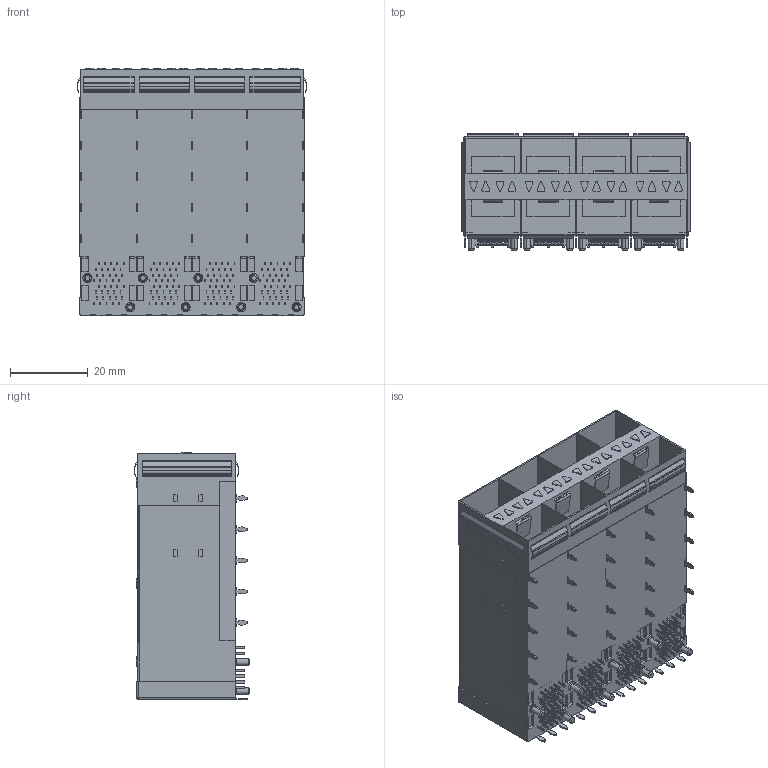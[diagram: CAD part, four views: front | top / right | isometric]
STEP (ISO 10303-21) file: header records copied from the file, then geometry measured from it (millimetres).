
FILE_DESCRIPTION (( 'STEP AP203' ), '1' );
FILE_NAME ('22401_SFP+ 2X4 囀俋絳嫖翐.STEP', '2024-06-05T00:33:41', ( '' ), ( '' ), 'SwSTEP 2.0', 'SolidWorks 2018', '' );
FILE_SCHEMA (( 'CONFIG_CONTROL_DESIGN' ));
Products named in the file (1): 22401_SFP+ 2X4 囀俋絳嫖翐
Bounding box: 59.06 x 29.78 x 63.5 mm (x, y, z)
Volume: 46951.8 mm3; surface area: 34615.2 mm2
Topology: 1 solids, 1 shells, 2249 faces, 6231 edges, 4226 vertices
Faces by surface type: plane 1643, cylinder 572, cone 32, sphere 2
Entity records: 71864 total; most frequent: CARTESIAN_POINT 12705, ORIENTED_EDGE 12458, DIRECTION 11909, EDGE_CURVE 6229, VECTOR 5049, LINE 5049, VERTEX_POINT 4226, AXIS2_PLACEMENT_3D 3430
